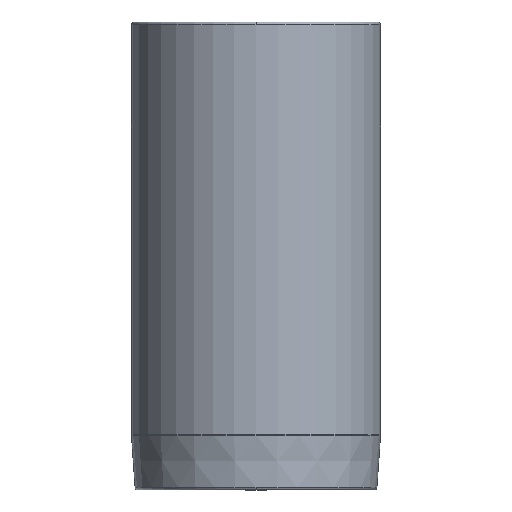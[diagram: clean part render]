
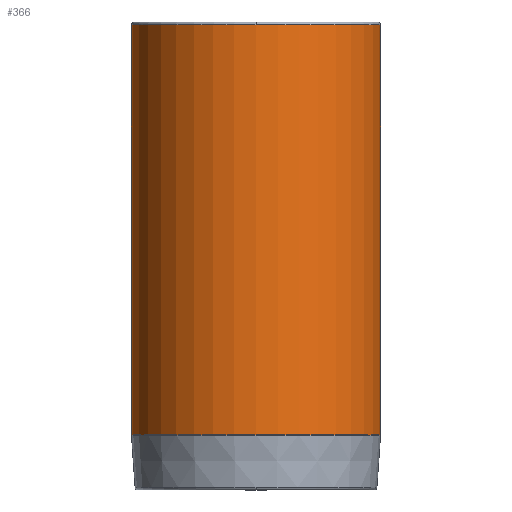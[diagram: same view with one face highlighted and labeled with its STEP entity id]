
A CAD part, front view. The second image highlights one B-rep face of the part: STEP entity #366.
In plain terms, the highlighted cylindrical face has radius 22.625 mm (diameter 45.25 mm), a partial arc.
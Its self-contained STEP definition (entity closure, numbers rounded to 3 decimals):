
#271=CARTESIAN_POINT('',(0.0,-22.625,41.5));
#272=VERTEX_POINT('',#271);
#298=CARTESIAN_POINT('',(-22.625,0.,41.5));
#299=VERTEX_POINT('',#298);
#307=CARTESIAN_POINT('',(0.0,0.,41.5));
#308=DIRECTION('',(0.0,0.0,1.0));
#309=DIRECTION('',(1.0,0.0,0.0));
#310=AXIS2_PLACEMENT_3D('',#307,#308,#309);
#311=CIRCLE('',#310,22.625);
#312=EDGE_CURVE('',#299,#272,#311,.T.);
#317=CARTESIAN_POINT('',(0.0,0.,4.267));
#318=DIRECTION('',(0.0,0.,1.0));
#319=DIRECTION('',(1.0,0.0,0.0));
#320=AXIS2_PLACEMENT_3D('',#317,#318,#319);
#321=CYLINDRICAL_SURFACE('',#320,22.625);
#322=CARTESIAN_POINT('',(22.625,0.,41.5));
#323=VERTEX_POINT('',#322);
#324=CARTESIAN_POINT('',(22.625,0.,-32.965));
#325=VERTEX_POINT('',#324);
#326=CARTESIAN_POINT('',(22.625,0.,41.5));
#327=DIRECTION('',(0.0,0.0,-1.0));
#328=VECTOR('',#327,74.465);
#329=LINE('',#326,#328);
#330=EDGE_CURVE('',#323,#325,#329,.T.);
#331=ORIENTED_EDGE('',*,*,#330,.F.);
#332=CARTESIAN_POINT('',(0.0,0.,41.5));
#333=DIRECTION('',(0.0,0.0,1.0));
#334=DIRECTION('',(1.0,0.0,0.0));
#335=AXIS2_PLACEMENT_3D('',#332,#333,#334);
#336=CIRCLE('',#335,22.625);
#337=EDGE_CURVE('',#272,#323,#336,.T.);
#338=ORIENTED_EDGE('',*,*,#337,.F.);
#339=ORIENTED_EDGE('',*,*,#312,.F.);
#340=CARTESIAN_POINT('',(-22.625,0.,-32.965));
#341=VERTEX_POINT('',#340);
#342=CARTESIAN_POINT('',(-22.625,0.,41.5));
#343=DIRECTION('',(0.0,0.0,-1.0));
#344=VECTOR('',#343,74.465);
#345=LINE('',#342,#344);
#346=EDGE_CURVE('',#299,#341,#345,.T.);
#347=ORIENTED_EDGE('',*,*,#346,.T.);
#348=CARTESIAN_POINT('',(0.0,-22.625,-32.965));
#349=VERTEX_POINT('',#348);
#350=CARTESIAN_POINT('',(0.0,0.,-32.965));
#351=DIRECTION('',(0.0,0.0,1.0));
#352=DIRECTION('',(1.0,0.0,0.0));
#353=AXIS2_PLACEMENT_3D('',#350,#351,#352);
#354=CIRCLE('',#353,22.625);
#355=EDGE_CURVE('',#341,#349,#354,.T.);
#356=ORIENTED_EDGE('',*,*,#355,.T.);
#357=CARTESIAN_POINT('',(0.0,0.,-32.965));
#358=DIRECTION('',(0.0,0.0,1.0));
#359=DIRECTION('',(1.0,0.0,0.0));
#360=AXIS2_PLACEMENT_3D('',#357,#358,#359);
#361=CIRCLE('',#360,22.625);
#362=EDGE_CURVE('',#349,#325,#361,.T.);
#363=ORIENTED_EDGE('',*,*,#362,.T.);
#364=EDGE_LOOP('',(#331,#338,#339,#347,#356,#363));
#365=FACE_OUTER_BOUND('',#364,.T.);
#366=ADVANCED_FACE('',(#365),#321,.T.);
